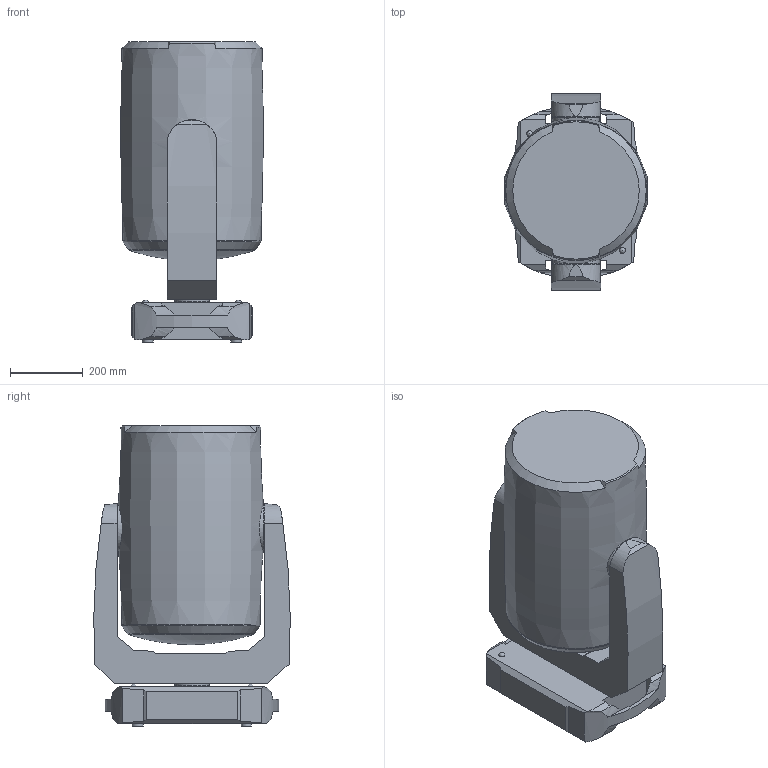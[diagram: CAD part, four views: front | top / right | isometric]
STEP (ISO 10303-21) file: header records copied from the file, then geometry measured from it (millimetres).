
FILE_DESCRIPTION(/* description */ ('Unknown'),/* implementation_level */ '2;1');
FILE_NAME(/* name */ '3D-iBolt',/* time_stamp */ '2023-10-27T07:03:46+02:00',/* author */ ('Unknown'),/* organization */ ('Unknown'),/* preprocessor_version */ 'ST-DEVELOPER v18.104',/* originating_system */ 'Solid Edge',/* authorisation */ 'Unknown');
FILE_SCHEMA (('AUTOMOTIVE_DESIGN {1 0 10303 214 3 1 1}'));
Length unit declared in the file: millimetre
Products named in the file (4): 3D-iBolt; iBolt-Base; iBolt-Arm; iBolt-Head
Assembly tree (3 placements, depth 2):
  3D-iBolt
    iBolt-Base
    iBolt-Arm
    iBolt-Head
Bounding box: 392.41 x 541.99 x 827.69 mm (x, y, z)
Volume: 98695674.3 mm3; surface area: 1993950.3 mm2
Topology: 3 solids, 3 shells, 102 faces, 284 edges, 190 vertices
Faces by surface type: plane 57, cylinder 23, bspline 12, cone 8, torus 2
Full cylindrical faces by diameter (mm): 27.261 x2, 29.966 x2, 49.99 x1, 95.6 x1, 97.471 x1, 130 x2
Entity records: 4707 total; most frequent: CARTESIAN_POINT 2209, ORIENTED_EDGE 506, DIRECTION 450, EDGE_CURVE 253, VERTEX_POINT 180, AXIS2_PLACEMENT_3D 161, FACE_BOUND 131, LINE 128
